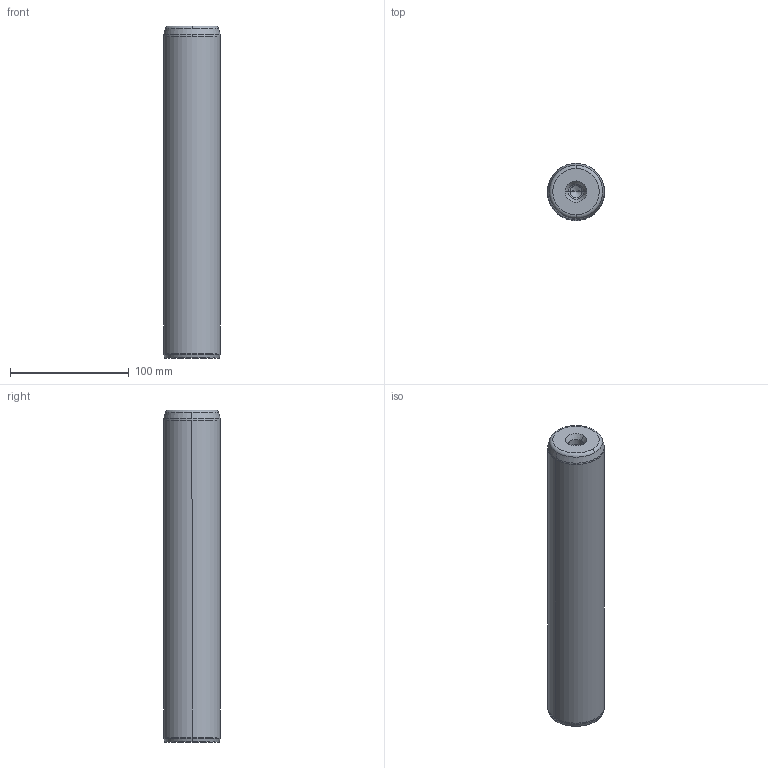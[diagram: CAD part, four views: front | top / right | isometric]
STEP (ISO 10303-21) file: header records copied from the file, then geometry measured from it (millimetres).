
FILE_DESCRIPTION((''),'2;1');
FILE_NAME('P10_048_280.stp','2008-12-23T16:08:47',(''),(''),'Mechanical Desktop 2009','Mechanical Desktop 2009',', , ');
FILE_SCHEMA(('CONFIG_CONTROL_DESIGN'));
Length unit declared in the file: millimetre
Products named in the file (5): Product; ProductAA; blmdl1; ProductA; blmdl1A
Assembly tree (2 placements, depth 3):
  Product
    ProductAA
      blmdl1
  ProductA
  blmdl1A
Bounding box: 48 x 48 x 280 mm (x, y, z)
Volume: 501109.6 mm3; surface area: 46499.9 mm2
Topology: 1 solids, 1 shells, 26 faces, 66 edges, 41 vertices
Faces by surface type: cone 10, torus 8, cylinder 6, plane 2
Entity records: 1012 total; most frequent: DIRECTION 170, CARTESIAN_POINT 134, ORIENTED_EDGE 128, AXIS2_PLACEMENT_3D 77, EDGE_CURVE 64, CIRCLE 48, VERTEX_POINT 41, EDGE_LOOP 27
